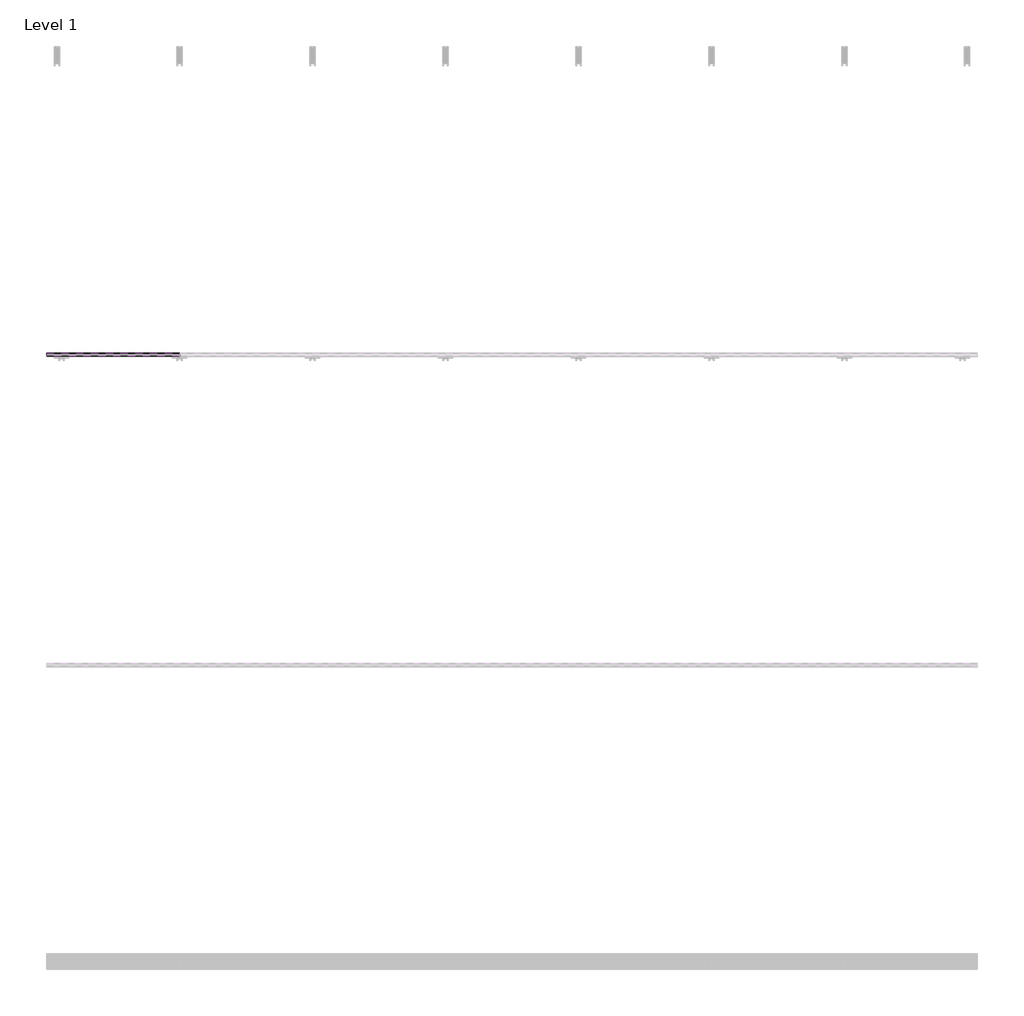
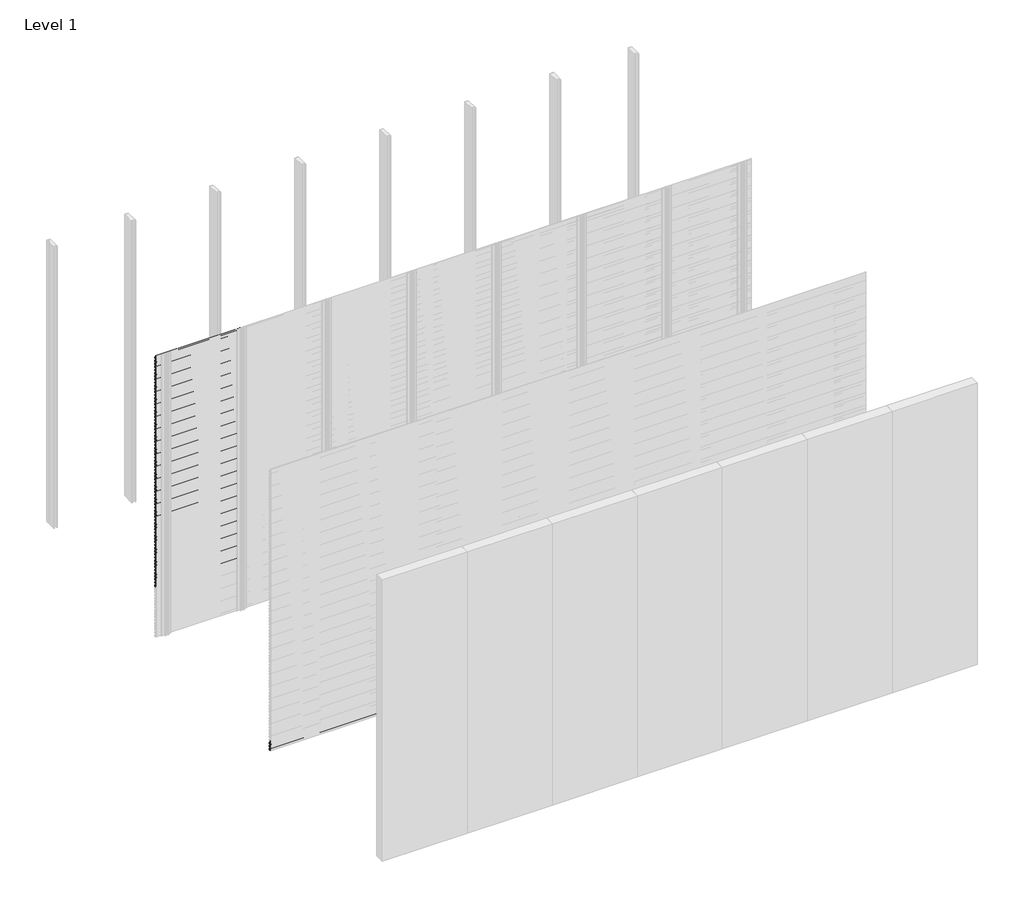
# One storey, part 5 of 96: 77 proxies.
"""IFC4 building model written with IfcOpenShell, lengths in millimetres."""

import ifcopenshell
import ifcopenshell.guid

model = None  # the IFC model being written
_history = None  # IfcOwnerHistory: only IFC2X3 demands one
_inside = {}  # id of a spatial element -> (the spatial element, [elements in it])
_under = {}  # id of a project, library or spatial element -> (it, [spatial elements below it])
_declared = {}  # id of a project -> (the project, [libraries it declares])
_typed = {}  # id of a type object -> (the type object, [elements of that type])
_made_of = {}  # id of a material, layer set ... -> (it, [elements and type objects made of it])


def new_model(schema):
    """Start an empty IFC model of exactly this schema.

    Asked for "IFC4X3", IfcOpenShell would pick the latest addendum, in which some entities
    have other attributes; the version numbers below select the first issue.
    IFC2X3 requires an IfcOwnerHistory on every rooted entity: one is made here for all.
    """
    global model, _history
    if schema == "IFC4X3":
        model = ifcopenshell.file(schema_version=(4, 3, 0, 0))
    else:
        model = ifcopenshell.file(schema=schema)
    _inside.clear()
    _under.clear()
    _declared.clear()
    _typed.clear()
    _made_of.clear()
    _history = None
    if model.schema == "IFC2X3":
        org = make("IfcOrganization", Name="unknown")
        user = make(
            "IfcPersonAndOrganization",
            ThePerson=make("IfcPerson", FamilyName="unknown"),
            TheOrganization=org,
        )
        app = make(
            "IfcApplication",
            ApplicationDeveloper=org,
            Version="unknown",
            ApplicationFullName="unknown",
            ApplicationIdentifier="unknown",
        )
        _history = make(
            "IfcOwnerHistory",
            OwningUser=user,
            OwningApplication=app,
            ChangeAction="ADDED",
            CreationDate=0,
        )
    return model


def make(cls, **values):
    """One entity of the class cls with the attributes given. An attribute that is None is left unset."""
    return model.create_entity(
        cls, **{name: value for name, value in values.items() if value is not None}
    )


def rooted(cls, **values):
    """An entity with a GlobalId (a new one), such as an element, a storey or a relation."""
    return make(cls, GlobalId=ifcopenshell.guid.new(), OwnerHistory=_history, **values)


def si_unit(unit_type, name, prefix=None):
    """IfcSIUnit, for example si_unit("LENGTHUNIT", "METRE", prefix="MILLI")."""
    return make("IfcSIUnit", UnitType=unit_type, Prefix=prefix, Name=name)


def assignment(units):
    """IfcUnitAssignment: the units of a project."""
    return None if units is None else make("IfcUnitAssignment", Units=units)


def point(xyz):
    """IfcCartesianPoint."""
    return None if xyz is None else make("IfcCartesianPoint", Coordinates=xyz)


def direction(xyz):
    """IfcDirection."""
    return None if xyz is None else make("IfcDirection", DirectionRatios=xyz)


def frame(location, z_axis=None, x_axis=None):
    """IfcAxis2Placement3D, a coordinate frame: its origin and axes. An axis left out is left unset."""
    return make(
        "IfcAxis2Placement3D",
        Location=point(location),
        Axis=direction(z_axis),
        RefDirection=direction(x_axis),
    )


def origin():
    """The frame at (0, 0, 0) with its axes left unset."""
    return frame((0.0, 0.0, 0.0))


def place(relative_to, where):
    """IfcLocalPlacement: puts the frame where relative to a parent placement (None: the world)."""
    return make(
        "IfcLocalPlacement", PlacementRelTo=relative_to, RelativePlacement=where
    )


def context(
    kind, dimensions, precision=None, world=None, true_north=None, identifier=None
):
    """IfcGeometricRepresentationContext, for example the 3D "Model" context."""
    return make(
        "IfcGeometricRepresentationContext",
        ContextIdentifier=identifier,
        ContextType=kind,
        CoordinateSpaceDimension=dimensions,
        Precision=precision,
        WorldCoordinateSystem=world,
        TrueNorth=true_north,
    )


def project(units=None, contexts=None):
    """IfcProject with its units and contexts."""
    return rooted(
        "IfcProject",
        Name="project",
        RepresentationContexts=contexts,
        UnitsInContext=assignment(units),
    )


def spatial(cls, under=None, at=None, **own):
    """A site, building, storey or space (cls), placed at a placement, below another one or the project."""
    s = rooted(cls, ObjectPlacement=at, **own)
    if under is not None:
        _under.setdefault(under.id(), (under, []))[1].append(s)
    return s


def polyline(points):
    """IfcPolyline through the points."""
    return make("IfcPolyline", Points=[point(p) for p in points])


def outline(outer, holes=None, kind="AREA"):
    """IfcArbitraryClosedProfileDef: a profile drawn as a closed curve; with holes, ...WithVoids."""
    if holes is None:
        return make("IfcArbitraryClosedProfileDef", ProfileType=kind, OuterCurve=outer)
    return make(
        "IfcArbitraryProfileDefWithVoids",
        ProfileType=kind,
        OuterCurve=outer,
        InnerCurves=holes,
    )


def extrude(swept, where, along, depth):
    """IfcExtrudedAreaSolid: the profile swept, set in the frame where, extruded along a direction by depth."""
    return make(
        "IfcExtrudedAreaSolid",
        SweptArea=swept,
        Position=where,
        ExtrudedDirection=direction(along),
        Depth=depth,
    )


def shape(context_of_items, identifier, shape_type, items):
    """IfcShapeRepresentation: the items that make up one representation, for example the "Body"."""
    return make(
        "IfcShapeRepresentation",
        ContextOfItems=context_of_items,
        RepresentationIdentifier=identifier,
        RepresentationType=shape_type,
        Items=items,
    )


def made_of(thing, what):
    """Note that an element or type object is made of a material, layer set ...; save() writes the relation."""
    if what is not None:
        _made_of.setdefault(what.id(), (what, []))[1].append(thing)
    return thing


def element(
    cls,
    number,
    at=None,
    inside=None,
    cuts=None,
    type_object=None,
    material=None,
    context=None,
    identifier="Body",
    shape_type=None,
    held_by="IfcProductDefinitionShape",
    body=None,
    shapes=None,
    **own,
):
    """One element of the class cls, such as IfcWall. Its Tag is "e" and its number.

    at: its placement. inside: the storey or other place that contains it. cuts: it is an
    opening in that element (IfcRelVoidsElement). A single representation is given by context,
    identifier, shape_type and body (its items); several are given by shapes. held_by: the class
    of the entity that holds the representations. save() writes the other relations.
    """
    e = rooted(cls, Tag="e%d" % number, ObjectPlacement=at, **own)
    if body is not None:
        shapes = [shape(context, identifier, shape_type, body)]
    if shapes is not None:
        e.Representation = make(held_by, Representations=shapes)
    if inside is not None:
        _inside.setdefault(inside.id(), (inside, []))[1].append(e)
    if cuts is not None:
        rooted(
            "IfcRelVoidsElement", RelatingBuildingElement=cuts, RelatedOpeningElement=e
        )
    if type_object is not None:
        _typed.setdefault(type_object.id(), (type_object, []))[1].append(e)
    return made_of(e, material)


def aggregate(whole, parts):
    """IfcRelAggregates: a whole, such as a stair, and the parts it consists of."""
    return rooted("IfcRelAggregates", RelatingObject=whole, RelatedObjects=parts)


def save(model, path):
    """Write the relations noted so far, then the file.

    IfcRelAggregates (storeys below a building ...), IfcRelContainedInSpatialStructure (elements
    in a storey), IfcRelDefinesByType, IfcRelAssociatesMaterial and IfcRelDeclares: one each for
    every whole, place, type object, material and project.
    """
    for whole, parts in _under.values():
        aggregate(whole, parts)
    for where, things in _inside.values():
        rooted(
            "IfcRelContainedInSpatialStructure",
            RelatedElements=things,
            RelatingStructure=where,
        )
    for kind, things in _typed.values():
        rooted("IfcRelDefinesByType", RelatedObjects=things, RelatingType=kind)
    for what, things in _made_of.values():
        rooted("IfcRelAssociatesMaterial", RelatedObjects=things, RelatingMaterial=what)
    for by, libraries in _declared.values():
        rooted("IfcRelDeclares", RelatingContext=by, RelatedDefinitions=libraries)
    model.write(path)


model = new_model("IFC4")

# Units and contexts
model_context = context("Model", 3, world=origin())
ifc_project = project(units=[si_unit("LENGTHUNIT", "METRE", prefix="MILLI")], contexts=[model_context])

# Site, building, storey
site = spatial("IfcSite", under=ifc_project)
building = spatial("IfcBuilding", under=site)
storey = spatial("IfcBuildingStorey", under=building, Name="Level 1", Elevation=0.0)

# Proxies
placement = place(None, origin())
element("IfcBuildingElementProxy", 1, Name="Wall Sweeps", at=placement, inside=storey, context=model_context, shape_type="SweptSolid", body=[
    extrude(outline(polyline([(-53977.6, 2971.7655033), (-53977.6, 2957.4779188), (-53982.4114965, 2954.7), (-53982.4114965, 2955.9701706), (-53978.85, 2958.0264016), (-53978.85, 2971.0437382), (-53998.0, 2982.1000799), (-53998.0, 2997.0), (-53996.75, 2997.0), (-53996.75, 2982.8217609), (-53977.6, 2971.7655033)])), frame((0.0, 0.0, 0.0), z_axis=(1.0, 0.0, 0.0), x_axis=(0.0, 1.0, 0.0)), (0.0, 0.0, 1.0), 857.1428571),
])
element("IfcBuildingElementProxy", 2, Name="Wall Sweeps", at=placement, inside=storey, context=model_context, shape_type="SweptSolid", body=[
    extrude(outline(polyline([(-53977.6, 2938.4655033), (-53977.6, 2924.1779188), (-53982.4114965, 2921.4), (-53982.4114965, 2922.6701706), (-53978.85, 2924.7264016), (-53978.85, 2937.7437382), (-53998.0, 2948.8000799), (-53998.0, 2963.7), (-53996.75, 2963.7), (-53996.75, 2949.5217609), (-53977.6, 2938.4655033)])), frame((0.0, 0.0, 0.0), z_axis=(1.0, 0.0, 0.0), x_axis=(0.0, 1.0, 0.0)), (0.0, 0.0, 1.0), 857.1428571),
])
element("IfcBuildingElementProxy", 3, Name="Wall Sweeps", at=placement, inside=storey, context=model_context, shape_type="SweptSolid", body=[
    extrude(outline(polyline([(-53977.6, 2905.1655033), (-53977.6, 2890.8779188), (-53982.4114965, 2888.1), (-53982.4114965, 2889.3701706), (-53978.85, 2891.4264016), (-53978.85, 2904.4437382), (-53998.0, 2915.5000799), (-53998.0, 2930.4), (-53996.75, 2930.4), (-53996.75, 2916.2217609), (-53977.6, 2905.1655033)])), frame((0.0, 0.0, 0.0), z_axis=(1.0, 0.0, 0.0), x_axis=(0.0, 1.0, 0.0)), (0.0, 0.0, 1.0), 857.1428571),
])
element("IfcBuildingElementProxy", 4, Name="Wall Sweeps", at=placement, inside=storey, context=model_context, shape_type="SweptSolid", body=[
    extrude(outline(polyline([(-53977.6, 2871.8655033), (-53977.6, 2857.5779188), (-53982.4114965, 2854.8), (-53982.4114965, 2856.0701706), (-53978.85, 2858.1264016), (-53978.85, 2871.1437382), (-53998.0, 2882.2000799), (-53998.0, 2897.1), (-53996.75, 2897.1), (-53996.75, 2882.9217609), (-53977.6, 2871.8655033)])), frame((0.0, 0.0, 0.0), z_axis=(1.0, 0.0, 0.0), x_axis=(0.0, 1.0, 0.0)), (0.0, 0.0, 1.0), 857.1428571),
])
element("IfcBuildingElementProxy", 5, Name="Wall Sweeps", at=placement, inside=storey, context=model_context, shape_type="SweptSolid", body=[
    extrude(outline(polyline([(-53977.6, 2838.5655033), (-53977.6, 2824.2779188), (-53982.4114965, 2821.5), (-53982.4114965, 2822.7701706), (-53978.85, 2824.8264016), (-53978.85, 2837.8437382), (-53998.0, 2848.9000799), (-53998.0, 2863.8), (-53996.75, 2863.8), (-53996.75, 2849.6217609), (-53977.6, 2838.5655033)])), frame((0.0, 0.0, 0.0), z_axis=(1.0, 0.0, 0.0), x_axis=(0.0, 1.0, 0.0)), (0.0, 0.0, 1.0), 857.1428571),
])
element("IfcBuildingElementProxy", 6, Name="Wall Sweeps", at=placement, inside=storey, context=model_context, shape_type="SweptSolid", body=[
    extrude(outline(polyline([(-53977.6, 2805.2655033), (-53977.6, 2790.9779188), (-53982.4114965, 2788.2), (-53982.4114965, 2789.4701706), (-53978.85, 2791.5264016), (-53978.85, 2804.5437382), (-53998.0, 2815.6000799), (-53998.0, 2830.5), (-53996.75, 2830.5), (-53996.75, 2816.3217609), (-53977.6, 2805.2655033)])), frame((0.0, 0.0, 0.0), z_axis=(1.0, 0.0, 0.0), x_axis=(0.0, 1.0, 0.0)), (0.0, 0.0, 1.0), 857.1428571),
])
element("IfcBuildingElementProxy", 7, Name="Wall Sweeps", at=placement, inside=storey, context=model_context, shape_type="SweptSolid", body=[
    extrude(outline(polyline([(-53977.6, 2771.9655033), (-53977.6, 2757.6779188), (-53982.4114965, 2754.9), (-53982.4114965, 2756.1701706), (-53978.85, 2758.2264016), (-53978.85, 2771.2437382), (-53998.0, 2782.3000799), (-53998.0, 2797.2), (-53996.75, 2797.2), (-53996.75, 2783.0217609), (-53977.6, 2771.9655033)])), frame((0.0, 0.0, 0.0), z_axis=(1.0, 0.0, 0.0), x_axis=(0.0, 1.0, 0.0)), (0.0, 0.0, 1.0), 857.1428571),
])
element("IfcBuildingElementProxy", 8, Name="Wall Sweeps", at=placement, inside=storey, context=model_context, shape_type="SweptSolid", body=[
    extrude(outline(polyline([(-53977.6, 2738.6655033), (-53977.6, 2724.3779188), (-53982.4114965, 2721.6), (-53982.4114965, 2722.8701706), (-53978.85, 2724.9264016), (-53978.85, 2737.9437382), (-53998.0, 2749.0000799), (-53998.0, 2763.9), (-53996.75, 2763.9), (-53996.75, 2749.7217609), (-53977.6, 2738.6655033)])), frame((0.0, 0.0, 0.0), z_axis=(1.0, 0.0, 0.0), x_axis=(0.0, 1.0, 0.0)), (0.0, 0.0, 1.0), 857.1428571),
])
element("IfcBuildingElementProxy", 9, Name="Wall Sweeps", at=placement, inside=storey, context=model_context, shape_type="SweptSolid", body=[
    extrude(outline(polyline([(-53977.6, 2705.3655033), (-53977.6, 2691.0779188), (-53982.4114965, 2688.3), (-53982.4114965, 2689.5701706), (-53978.85, 2691.6264016), (-53978.85, 2704.6437382), (-53998.0, 2715.7000799), (-53998.0, 2730.6), (-53996.75, 2730.6), (-53996.75, 2716.4217609), (-53977.6, 2705.3655033)])), frame((0.0, 0.0, 0.0), z_axis=(1.0, 0.0, 0.0), x_axis=(0.0, 1.0, 0.0)), (0.0, 0.0, 1.0), 857.1428571),
])
element("IfcBuildingElementProxy", 10, Name="Wall Sweeps", at=placement, inside=storey, context=model_context, shape_type="SweptSolid", body=[
    extrude(outline(polyline([(-53977.6, 2672.0655033), (-53977.6, 2657.7779188), (-53982.4114965, 2655.0), (-53982.4114965, 2656.2701706), (-53978.85, 2658.3264016), (-53978.85, 2671.3437382), (-53998.0, 2682.4000799), (-53998.0, 2697.3), (-53996.75, 2697.3), (-53996.75, 2683.1217609), (-53977.6, 2672.0655033)])), frame((0.0, 0.0, 0.0), z_axis=(1.0, 0.0, 0.0), x_axis=(0.0, 1.0, 0.0)), (0.0, 0.0, 1.0), 857.1428571),
])
element("IfcBuildingElementProxy", 11, Name="Wall Sweeps", at=placement, inside=storey, context=model_context, shape_type="SweptSolid", body=[
    extrude(outline(polyline([(-53977.6, 2638.7655033), (-53977.6, 2624.4779188), (-53982.4114965, 2621.7), (-53982.4114965, 2622.9701706), (-53978.85, 2625.0264016), (-53978.85, 2638.0437382), (-53998.0, 2649.1000799), (-53998.0, 2664.0), (-53996.75, 2664.0), (-53996.75, 2649.8217609), (-53977.6, 2638.7655033)])), frame((0.0, 0.0, 0.0), z_axis=(1.0, 0.0, 0.0), x_axis=(0.0, 1.0, 0.0)), (0.0, 0.0, 1.0), 857.1428571),
])
element("IfcBuildingElementProxy", 12, Name="Wall Sweeps", at=placement, inside=storey, context=model_context, shape_type="SweptSolid", body=[
    extrude(outline(polyline([(-53977.6, 2605.4655033), (-53977.6, 2591.1779188), (-53982.4114965, 2588.4), (-53982.4114965, 2589.6701706), (-53978.85, 2591.7264016), (-53978.85, 2604.7437382), (-53998.0, 2615.8000799), (-53998.0, 2630.7), (-53996.75, 2630.7), (-53996.75, 2616.5217609), (-53977.6, 2605.4655033)])), frame((0.0, 0.0, 0.0), z_axis=(1.0, 0.0, 0.0), x_axis=(0.0, 1.0, 0.0)), (0.0, 0.0, 1.0), 857.1428571),
])
element("IfcBuildingElementProxy", 13, Name="Wall Sweeps", at=placement, inside=storey, context=model_context, shape_type="SweptSolid", body=[
    extrude(outline(polyline([(-53977.6, 2572.1655033), (-53977.6, 2557.8779188), (-53982.4114965, 2555.1), (-53982.4114965, 2556.3701706), (-53978.85, 2558.4264016), (-53978.85, 2571.4437382), (-53998.0, 2582.5000799), (-53998.0, 2597.4), (-53996.75, 2597.4), (-53996.75, 2583.2217609), (-53977.6, 2572.1655033)])), frame((0.0, 0.0, 0.0), z_axis=(1.0, 0.0, 0.0), x_axis=(0.0, 1.0, 0.0)), (0.0, 0.0, 1.0), 857.1428571),
])
element("IfcBuildingElementProxy", 14, Name="Wall Sweeps", at=placement, inside=storey, context=model_context, shape_type="SweptSolid", body=[
    extrude(outline(polyline([(-53977.6, 2538.8655033), (-53977.6, 2524.5779188), (-53982.4114965, 2521.8), (-53982.4114965, 2523.0701706), (-53978.85, 2525.1264016), (-53978.85, 2538.1437382), (-53998.0, 2549.2000799), (-53998.0, 2564.1), (-53996.75, 2564.1), (-53996.75, 2549.9217609), (-53977.6, 2538.8655033)])), frame((0.0, 0.0, 0.0), z_axis=(1.0, 0.0, 0.0), x_axis=(0.0, 1.0, 0.0)), (0.0, 0.0, 1.0), 857.1428571),
])
element("IfcBuildingElementProxy", 15, Name="Wall Sweeps", at=placement, inside=storey, context=model_context, shape_type="SweptSolid", body=[
    extrude(outline(polyline([(-53977.6, 2505.5655033), (-53977.6, 2491.2779188), (-53982.4114965, 2488.5), (-53982.4114965, 2489.7701706), (-53978.85, 2491.8264016), (-53978.85, 2504.8437382), (-53998.0, 2515.9000799), (-53998.0, 2530.8), (-53996.75, 2530.8), (-53996.75, 2516.6217609), (-53977.6, 2505.5655033)])), frame((0.0, 0.0, 0.0), z_axis=(1.0, 0.0, 0.0), x_axis=(0.0, 1.0, 0.0)), (0.0, 0.0, 1.0), 857.1428571),
])
element("IfcBuildingElementProxy", 16, Name="Wall Sweeps", at=placement, inside=storey, context=model_context, shape_type="SweptSolid", body=[
    extrude(outline(polyline([(-53977.6, 2472.2655033), (-53977.6, 2457.9779188), (-53982.4114965, 2455.2), (-53982.4114965, 2456.4701706), (-53978.85, 2458.5264016), (-53978.85, 2471.5437382), (-53998.0, 2482.6000799), (-53998.0, 2497.5), (-53996.75, 2497.5), (-53996.75, 2483.3217609), (-53977.6, 2472.2655033)])), frame((0.0, 0.0, 0.0), z_axis=(1.0, 0.0, 0.0), x_axis=(0.0, 1.0, 0.0)), (0.0, 0.0, 1.0), 857.1428571),
])
element("IfcBuildingElementProxy", 17, Name="Wall Sweeps", at=placement, inside=storey, context=model_context, shape_type="SweptSolid", body=[
    extrude(outline(polyline([(-53977.6, 2438.9655033), (-53977.6, 2424.6779188), (-53982.4114965, 2421.9), (-53982.4114965, 2423.1701706), (-53978.85, 2425.2264016), (-53978.85, 2438.2437382), (-53998.0, 2449.3000799), (-53998.0, 2464.2), (-53996.75, 2464.2), (-53996.75, 2450.0217609), (-53977.6, 2438.9655033)])), frame((0.0, 0.0, 0.0), z_axis=(1.0, 0.0, 0.0), x_axis=(0.0, 1.0, 0.0)), (0.0, 0.0, 1.0), 857.1428571),
])
element("IfcBuildingElementProxy", 18, Name="Wall Sweeps", at=placement, inside=storey, context=model_context, shape_type="SweptSolid", body=[
    extrude(outline(polyline([(-53977.6, 2405.6655033), (-53977.6, 2391.3779188), (-53982.4114965, 2388.6), (-53982.4114965, 2389.8701706), (-53978.85, 2391.9264016), (-53978.85, 2404.9437382), (-53998.0, 2416.0000799), (-53998.0, 2430.9), (-53996.75, 2430.9), (-53996.75, 2416.7217609), (-53977.6, 2405.6655033)])), frame((0.0, 0.0, 0.0), z_axis=(1.0, 0.0, 0.0), x_axis=(0.0, 1.0, 0.0)), (0.0, 0.0, 1.0), 857.1428571),
])
element("IfcBuildingElementProxy", 19, Name="Wall Sweeps", at=placement, inside=storey, context=model_context, shape_type="SweptSolid", body=[
    extrude(outline(polyline([(-53977.6, 2372.3655033), (-53977.6, 2358.0779188), (-53982.4114965, 2355.3), (-53982.4114965, 2356.5701706), (-53978.85, 2358.6264016), (-53978.85, 2371.6437382), (-53998.0, 2382.7000799), (-53998.0, 2397.6), (-53996.75, 2397.6), (-53996.75, 2383.4217609), (-53977.6, 2372.3655033)])), frame((0.0, 0.0, 0.0), z_axis=(1.0, 0.0, 0.0), x_axis=(0.0, 1.0, 0.0)), (0.0, 0.0, 1.0), 857.1428571),
])
element("IfcBuildingElementProxy", 20, Name="Wall Sweeps", at=placement, inside=storey, context=model_context, shape_type="SweptSolid", body=[
    extrude(outline(polyline([(-53977.6, 2339.0655033), (-53977.6, 2324.7779188), (-53982.4114965, 2322.0), (-53982.4114965, 2323.2701706), (-53978.85, 2325.3264016), (-53978.85, 2338.3437382), (-53998.0, 2349.4000799), (-53998.0, 2364.3), (-53996.75, 2364.3), (-53996.75, 2350.1217609), (-53977.6, 2339.0655033)])), frame((0.0, 0.0, 0.0), z_axis=(1.0, 0.0, 0.0), x_axis=(0.0, 1.0, 0.0)), (0.0, 0.0, 1.0), 857.1428571),
])
element("IfcBuildingElementProxy", 21, Name="Wall Sweeps", at=placement, inside=storey, context=model_context, shape_type="SweptSolid", body=[
    extrude(outline(polyline([(-53977.6, 2305.7655033), (-53977.6, 2291.4779188), (-53982.4114965, 2288.7), (-53982.4114965, 2289.9701706), (-53978.85, 2292.0264016), (-53978.85, 2305.0437382), (-53998.0, 2316.1000799), (-53998.0, 2331.0), (-53996.75, 2331.0), (-53996.75, 2316.8217609), (-53977.6, 2305.7655033)])), frame((0.0, 0.0, 0.0), z_axis=(1.0, 0.0, 0.0), x_axis=(0.0, 1.0, 0.0)), (0.0, 0.0, 1.0), 857.1428571),
])
element("IfcBuildingElementProxy", 22, Name="Wall Sweeps", at=placement, inside=storey, context=model_context, shape_type="SweptSolid", body=[
    extrude(outline(polyline([(-53977.6, 2272.4655033), (-53977.6, 2258.1779188), (-53982.4114965, 2255.4), (-53982.4114965, 2256.6701706), (-53978.85, 2258.7264016), (-53978.85, 2271.7437382), (-53998.0, 2282.8000799), (-53998.0, 2297.7), (-53996.75, 2297.7), (-53996.75, 2283.5217609), (-53977.6, 2272.4655033)])), frame((0.0, 0.0, 0.0), z_axis=(1.0, 0.0, 0.0), x_axis=(0.0, 1.0, 0.0)), (0.0, 0.0, 1.0), 857.1428571),
])
element("IfcBuildingElementProxy", 23, Name="Wall Sweeps", at=placement, inside=storey, context=model_context, shape_type="SweptSolid", body=[
    extrude(outline(polyline([(-53977.6, 2239.1655033), (-53977.6, 2224.8779188), (-53982.4114965, 2222.1), (-53982.4114965, 2223.3701706), (-53978.85, 2225.4264016), (-53978.85, 2238.4437382), (-53998.0, 2249.5000799), (-53998.0, 2264.4), (-53996.75, 2264.4), (-53996.75, 2250.2217609), (-53977.6, 2239.1655033)])), frame((0.0, 0.0, 0.0), z_axis=(1.0, 0.0, 0.0), x_axis=(0.0, 1.0, 0.0)), (0.0, 0.0, 1.0), 857.1428571),
])
element("IfcBuildingElementProxy", 24, Name="Wall Sweeps", at=placement, inside=storey, context=model_context, shape_type="SweptSolid", body=[
    extrude(outline(polyline([(-53977.6, 2205.8655033), (-53977.6, 2191.5779188), (-53982.4114965, 2188.8), (-53982.4114965, 2190.0701706), (-53978.85, 2192.1264016), (-53978.85, 2205.1437382), (-53998.0, 2216.2000799), (-53998.0, 2231.1), (-53996.75, 2231.1), (-53996.75, 2216.9217609), (-53977.6, 2205.8655033)])), frame((0.0, 0.0, 0.0), z_axis=(1.0, 0.0, 0.0), x_axis=(0.0, 1.0, 0.0)), (0.0, 0.0, 1.0), 857.1428571),
])
element("IfcBuildingElementProxy", 25, Name="Wall Sweeps", at=placement, inside=storey, context=model_context, shape_type="SweptSolid", body=[
    extrude(outline(polyline([(-53977.6, 2172.5655033), (-53977.6, 2158.2779188), (-53982.4114965, 2155.5), (-53982.4114965, 2156.7701706), (-53978.85, 2158.8264016), (-53978.85, 2171.8437382), (-53998.0, 2182.9000799), (-53998.0, 2197.8), (-53996.75, 2197.8), (-53996.75, 2183.6217609), (-53977.6, 2172.5655033)])), frame((0.0, 0.0, 0.0), z_axis=(1.0, 0.0, 0.0), x_axis=(0.0, 1.0, 0.0)), (0.0, 0.0, 1.0), 857.1428571),
])
element("IfcBuildingElementProxy", 26, Name="Wall Sweeps", at=placement, inside=storey, context=model_context, shape_type="SweptSolid", body=[
    extrude(outline(polyline([(-53977.6, 2139.2655033), (-53977.6, 2124.9779188), (-53982.4114965, 2122.2), (-53982.4114965, 2123.4701706), (-53978.85, 2125.5264016), (-53978.85, 2138.5437382), (-53998.0, 2149.6000799), (-53998.0, 2164.5), (-53996.75, 2164.5), (-53996.75, 2150.3217609), (-53977.6, 2139.2655033)])), frame((0.0, 0.0, 0.0), z_axis=(1.0, 0.0, 0.0), x_axis=(0.0, 1.0, 0.0)), (0.0, 0.0, 1.0), 857.1428571),
])
element("IfcBuildingElementProxy", 27, Name="Wall Sweeps", at=placement, inside=storey, context=model_context, shape_type="SweptSolid", body=[
    extrude(outline(polyline([(-53977.6, 2105.9655033), (-53977.6, 2091.6779188), (-53982.4114965, 2088.9), (-53982.4114965, 2090.1701706), (-53978.85, 2092.2264016), (-53978.85, 2105.2437382), (-53998.0, 2116.3000799), (-53998.0, 2131.2), (-53996.75, 2131.2), (-53996.75, 2117.0217609), (-53977.6, 2105.9655033)])), frame((0.0, 0.0, 0.0), z_axis=(1.0, 0.0, 0.0), x_axis=(0.0, 1.0, 0.0)), (0.0, 0.0, 1.0), 857.1428571),
])
element("IfcBuildingElementProxy", 28, Name="Wall Sweeps", at=placement, inside=storey, context=model_context, shape_type="SweptSolid", body=[
    extrude(outline(polyline([(-53977.6, 2072.6655033), (-53977.6, 2058.3779188), (-53982.4114965, 2055.6), (-53982.4114965, 2056.8701706), (-53978.85, 2058.9264016), (-53978.85, 2071.9437382), (-53998.0, 2083.0000799), (-53998.0, 2097.9), (-53996.75, 2097.9), (-53996.75, 2083.7217609), (-53977.6, 2072.6655033)])), frame((0.0, 0.0, 0.0), z_axis=(1.0, 0.0, 0.0), x_axis=(0.0, 1.0, 0.0)), (0.0, 0.0, 1.0), 857.1428571),
])
element("IfcBuildingElementProxy", 29, Name="Wall Sweeps", at=placement, inside=storey, context=model_context, shape_type="SweptSolid", body=[
    extrude(outline(polyline([(-53977.6, 2039.3655033), (-53977.6, 2025.0779188), (-53982.4114965, 2022.3), (-53982.4114965, 2023.5701706), (-53978.85, 2025.6264016), (-53978.85, 2038.6437382), (-53998.0, 2049.7000799), (-53998.0, 2064.6), (-53996.75, 2064.6), (-53996.75, 2050.4217609), (-53977.6, 2039.3655033)])), frame((0.0, 0.0, 0.0), z_axis=(1.0, 0.0, 0.0), x_axis=(0.0, 1.0, 0.0)), (0.0, 0.0, 1.0), 857.1428571),
])
element("IfcBuildingElementProxy", 30, Name="Wall Sweeps", at=placement, inside=storey, context=model_context, shape_type="SweptSolid", body=[
    extrude(outline(polyline([(-53977.6, 2006.0655033), (-53977.6, 1991.7779188), (-53982.4114965, 1989.0), (-53982.4114965, 1990.2701706), (-53978.85, 1992.3264016), (-53978.85, 2005.3437382), (-53998.0, 2016.4000799), (-53998.0, 2031.3), (-53996.75, 2031.3), (-53996.75, 2017.1217609), (-53977.6, 2006.0655033)])), frame((0.0, 0.0, 0.0), z_axis=(1.0, 0.0, 0.0), x_axis=(0.0, 1.0, 0.0)), (0.0, 0.0, 1.0), 857.1428571),
])
element("IfcBuildingElementProxy", 31, Name="Wall Sweeps", at=placement, inside=storey, context=model_context, shape_type="SweptSolid", body=[
    extrude(outline(polyline([(-53977.6, 1972.7655033), (-53977.6, 1958.4779188), (-53982.4114965, 1955.7), (-53982.4114965, 1956.9701706), (-53978.85, 1959.0264016), (-53978.85, 1972.0437382), (-53998.0, 1983.1000799), (-53998.0, 1998.0), (-53996.75, 1998.0), (-53996.75, 1983.8217609), (-53977.6, 1972.7655033)])), frame((0.0, 0.0, 0.0), z_axis=(1.0, 0.0, 0.0), x_axis=(0.0, 1.0, 0.0)), (0.0, 0.0, 1.0), 857.1428571),
])
element("IfcBuildingElementProxy", 32, Name="Wall Sweeps", at=placement, inside=storey, context=model_context, shape_type="SweptSolid", body=[
    extrude(outline(polyline([(-53977.6, 1939.4655033), (-53977.6, 1925.1779188), (-53982.4114965, 1922.4), (-53982.4114965, 1923.6701706), (-53978.85, 1925.7264016), (-53978.85, 1938.7437382), (-53998.0, 1949.8000799), (-53998.0, 1964.7), (-53996.75, 1964.7), (-53996.75, 1950.5217609), (-53977.6, 1939.4655033)])), frame((0.0, 0.0, 0.0), z_axis=(1.0, 0.0, 0.0), x_axis=(0.0, 1.0, 0.0)), (0.0, 0.0, 1.0), 857.1428571),
])
element("IfcBuildingElementProxy", 33, Name="Wall Sweeps", at=placement, inside=storey, context=model_context, shape_type="SweptSolid", body=[
    extrude(outline(polyline([(-53977.6, 1906.1655033), (-53977.6, 1891.8779188), (-53982.4114965, 1889.1), (-53982.4114965, 1890.3701706), (-53978.85, 1892.4264016), (-53978.85, 1905.4437382), (-53998.0, 1916.5000799), (-53998.0, 1931.4), (-53996.75, 1931.4), (-53996.75, 1917.2217609), (-53977.6, 1906.1655033)])), frame((0.0, 0.0, 0.0), z_axis=(1.0, 0.0, 0.0), x_axis=(0.0, 1.0, 0.0)), (0.0, 0.0, 1.0), 857.1428571),
])
element("IfcBuildingElementProxy", 34, Name="Wall Sweeps", at=placement, inside=storey, context=model_context, shape_type="SweptSolid", body=[
    extrude(outline(polyline([(-53977.6, 1872.8655033), (-53977.6, 1858.5779188), (-53982.4114965, 1855.8), (-53982.4114965, 1857.0701706), (-53978.85, 1859.1264016), (-53978.85, 1872.1437382), (-53998.0, 1883.2000799), (-53998.0, 1898.1), (-53996.75, 1898.1), (-53996.75, 1883.9217609), (-53977.6, 1872.8655033)])), frame((0.0, 0.0, 0.0), z_axis=(1.0, 0.0, 0.0), x_axis=(0.0, 1.0, 0.0)), (0.0, 0.0, 1.0), 857.1428571),
])
element("IfcBuildingElementProxy", 35, Name="Wall Sweeps", at=placement, inside=storey, context=model_context, shape_type="SweptSolid", body=[
    extrude(outline(polyline([(-53977.6, 1839.5655033), (-53977.6, 1825.2779188), (-53982.4114965, 1822.5), (-53982.4114965, 1823.7701706), (-53978.85, 1825.8264016), (-53978.85, 1838.8437382), (-53998.0, 1849.9000799), (-53998.0, 1864.8), (-53996.75, 1864.8), (-53996.75, 1850.6217609), (-53977.6, 1839.5655033)])), frame((0.0, 0.0, 0.0), z_axis=(1.0, 0.0, 0.0), x_axis=(0.0, 1.0, 0.0)), (0.0, 0.0, 1.0), 857.1428571),
])
element("IfcBuildingElementProxy", 36, Name="Wall Sweeps", at=placement, inside=storey, context=model_context, shape_type="SweptSolid", body=[
    extrude(outline(polyline([(-53977.6, 1806.2655033), (-53977.6, 1791.9779188), (-53982.4114965, 1789.2), (-53982.4114965, 1790.4701706), (-53978.85, 1792.5264016), (-53978.85, 1805.5437382), (-53998.0, 1816.6000799), (-53998.0, 1831.5), (-53996.75, 1831.5), (-53996.75, 1817.3217609), (-53977.6, 1806.2655033)])), frame((0.0, 0.0, 0.0), z_axis=(1.0, 0.0, 0.0), x_axis=(0.0, 1.0, 0.0)), (0.0, 0.0, 1.0), 857.1428571),
])
element("IfcBuildingElementProxy", 37, Name="Wall Sweeps", at=placement, inside=storey, context=model_context, shape_type="SweptSolid", body=[
    extrude(outline(polyline([(-53977.6, 1772.9655033), (-53977.6, 1758.6779188), (-53982.4114965, 1755.9), (-53982.4114965, 1757.1701706), (-53978.85, 1759.2264016), (-53978.85, 1772.2437382), (-53998.0, 1783.3000799), (-53998.0, 1798.2), (-53996.75, 1798.2), (-53996.75, 1784.0217609), (-53977.6, 1772.9655033)])), frame((0.0, 0.0, 0.0), z_axis=(1.0, 0.0, 0.0), x_axis=(0.0, 1.0, 0.0)), (0.0, 0.0, 1.0), 857.1428571),
])
element("IfcBuildingElementProxy", 38, Name="Wall Sweeps", at=placement, inside=storey, context=model_context, shape_type="SweptSolid", body=[
    extrude(outline(polyline([(-53977.6, 1739.6655033), (-53977.6, 1725.3779188), (-53982.4114965, 1722.6), (-53982.4114965, 1723.8701706), (-53978.85, 1725.9264016), (-53978.85, 1738.9437382), (-53998.0, 1750.0000799), (-53998.0, 1764.9), (-53996.75, 1764.9), (-53996.75, 1750.7217609), (-53977.6, 1739.6655033)])), frame((0.0, 0.0, 0.0), z_axis=(1.0, 0.0, 0.0), x_axis=(0.0, 1.0, 0.0)), (0.0, 0.0, 1.0), 857.1428571),
])
element("IfcBuildingElementProxy", 39, Name="Wall Sweeps", at=placement, inside=storey, context=model_context, shape_type="SweptSolid", body=[
    extrude(outline(polyline([(-53977.6, 1706.3655033), (-53977.6, 1692.0779188), (-53982.4114965, 1689.3), (-53982.4114965, 1690.5701706), (-53978.85, 1692.6264016), (-53978.85, 1705.6437382), (-53998.0, 1716.7000799), (-53998.0, 1731.6), (-53996.75, 1731.6), (-53996.75, 1717.4217609), (-53977.6, 1706.3655033)])), frame((0.0, 0.0, 0.0), z_axis=(1.0, 0.0, 0.0), x_axis=(0.0, 1.0, 0.0)), (0.0, 0.0, 1.0), 857.1428571),
])
element("IfcBuildingElementProxy", 40, Name="Wall Sweeps", at=placement, inside=storey, context=model_context, shape_type="SweptSolid", body=[
    extrude(outline(polyline([(-53977.6, 1673.0655033), (-53977.6, 1658.7779188), (-53982.4114965, 1656.0), (-53982.4114965, 1657.2701706), (-53978.85, 1659.3264016), (-53978.85, 1672.3437382), (-53998.0, 1683.4000799), (-53998.0, 1698.3), (-53996.75, 1698.3), (-53996.75, 1684.1217609), (-53977.6, 1673.0655033)])), frame((0.0, 0.0, 0.0), z_axis=(1.0, 0.0, 0.0), x_axis=(0.0, 1.0, 0.0)), (0.0, 0.0, 1.0), 857.1428571),
])
element("IfcBuildingElementProxy", 41, Name="Wall Sweeps", at=placement, inside=storey, context=model_context, shape_type="SweptSolid", body=[
    extrude(outline(polyline([(-53977.6, 1639.7655033), (-53977.6, 1625.4779188), (-53982.4114965, 1622.7), (-53982.4114965, 1623.9701706), (-53978.85, 1626.0264016), (-53978.85, 1639.0437382), (-53998.0, 1650.1000799), (-53998.0, 1665.0), (-53996.75, 1665.0), (-53996.75, 1650.8217609), (-53977.6, 1639.7655033)])), frame((0.0, 0.0, 0.0), z_axis=(1.0, 0.0, 0.0), x_axis=(0.0, 1.0, 0.0)), (0.0, 0.0, 1.0), 857.1428571),
])
element("IfcBuildingElementProxy", 42, Name="Wall Sweeps", at=placement, inside=storey, context=model_context, shape_type="SweptSolid", body=[
    extrude(outline(polyline([(-53977.6, 1606.4655033), (-53977.6, 1592.1779188), (-53982.4114965, 1589.4), (-53982.4114965, 1590.6701706), (-53978.85, 1592.7264016), (-53978.85, 1605.7437382), (-53998.0, 1616.8000799), (-53998.0, 1631.7), (-53996.75, 1631.7), (-53996.75, 1617.5217609), (-53977.6, 1606.4655033)])), frame((0.0, 0.0, 0.0), z_axis=(1.0, 0.0, 0.0), x_axis=(0.0, 1.0, 0.0)), (0.0, 0.0, 1.0), 857.1428571),
])
element("IfcBuildingElementProxy", 43, Name="Wall Sweeps", at=placement, inside=storey, context=model_context, shape_type="SweptSolid", body=[
    extrude(outline(polyline([(-53977.6, 1573.1655033), (-53977.6, 1558.8779188), (-53982.4114965, 1556.1), (-53982.4114965, 1557.3701706), (-53978.85, 1559.4264016), (-53978.85, 1572.4437382), (-53998.0, 1583.5000799), (-53998.0, 1598.4), (-53996.75, 1598.4), (-53996.75, 1584.2217609), (-53977.6, 1573.1655033)])), frame((0.0, 0.0, 0.0), z_axis=(1.0, 0.0, 0.0), x_axis=(0.0, 1.0, 0.0)), (0.0, 0.0, 1.0), 857.1428571),
])
element("IfcBuildingElementProxy", 44, Name="Wall Sweeps", at=placement, inside=storey, context=model_context, shape_type="SweptSolid", body=[
    extrude(outline(polyline([(-53977.6, 1539.8655033), (-53977.6, 1525.5779188), (-53982.4114965, 1522.8), (-53982.4114965, 1524.0701706), (-53978.85, 1526.1264016), (-53978.85, 1539.1437382), (-53998.0, 1550.2000799), (-53998.0, 1565.1), (-53996.75, 1565.1), (-53996.75, 1550.9217609), (-53977.6, 1539.8655033)])), frame((0.0, 0.0, 0.0), z_axis=(1.0, 0.0, 0.0), x_axis=(0.0, 1.0, 0.0)), (0.0, 0.0, 1.0), 857.1428571),
])
element("IfcBuildingElementProxy", 45, Name="Wall Sweeps", at=placement, inside=storey, context=model_context, shape_type="SweptSolid", body=[
    extrude(outline(polyline([(-53977.6, 1506.5655033), (-53977.6, 1492.2779188), (-53982.4114965, 1489.5), (-53982.4114965, 1490.7701706), (-53978.85, 1492.8264016), (-53978.85, 1505.8437382), (-53998.0, 1516.9000799), (-53998.0, 1531.8), (-53996.75, 1531.8), (-53996.75, 1517.6217609), (-53977.6, 1506.5655033)])), frame((0.0, 0.0, 0.0), z_axis=(1.0, 0.0, 0.0), x_axis=(0.0, 1.0, 0.0)), (0.0, 0.0, 1.0), 857.1428571),
])
element("IfcBuildingElementProxy", 46, Name="Wall Sweeps", at=placement, inside=storey, context=model_context, shape_type="SweptSolid", body=[
    extrude(outline(polyline([(-53977.6, 1473.2655033), (-53977.6, 1458.9779188), (-53982.4114965, 1456.2), (-53982.4114965, 1457.4701706), (-53978.85, 1459.5264016), (-53978.85, 1472.5437382), (-53998.0, 1483.6000799), (-53998.0, 1498.5), (-53996.75, 1498.5), (-53996.75, 1484.3217609), (-53977.6, 1473.2655033)])), frame((0.0, 0.0, 0.0), z_axis=(1.0, 0.0, 0.0), x_axis=(0.0, 1.0, 0.0)), (0.0, 0.0, 1.0), 857.1428571),
])
element("IfcBuildingElementProxy", 47, Name="Wall Sweeps", at=placement, inside=storey, context=model_context, shape_type="SweptSolid", body=[
    extrude(outline(polyline([(-53977.6, 1439.9655033), (-53977.6, 1425.6779188), (-53982.4114965, 1422.9), (-53982.4114965, 1424.1701706), (-53978.85, 1426.2264016), (-53978.85, 1439.2437382), (-53998.0, 1450.3000799), (-53998.0, 1465.2), (-53996.75, 1465.2), (-53996.75, 1451.0217609), (-53977.6, 1439.9655033)])), frame((0.0, 0.0, 0.0), z_axis=(1.0, 0.0, 0.0), x_axis=(0.0, 1.0, 0.0)), (0.0, 0.0, 1.0), 857.1428571),
])
element("IfcBuildingElementProxy", 48, Name="Wall Sweeps", at=placement, inside=storey, context=model_context, shape_type="SweptSolid", body=[
    extrude(outline(polyline([(-53977.6, 1406.6655033), (-53977.6, 1392.3779188), (-53982.4114965, 1389.6), (-53982.4114965, 1390.8701706), (-53978.85, 1392.9264016), (-53978.85, 1405.9437382), (-53998.0, 1417.0000799), (-53998.0, 1431.9), (-53996.75, 1431.9), (-53996.75, 1417.7217609), (-53977.6, 1406.6655033)])), frame((0.0, 0.0, 0.0), z_axis=(1.0, 0.0, 0.0), x_axis=(0.0, 1.0, 0.0)), (0.0, 0.0, 1.0), 857.1428571),
])
element("IfcBuildingElementProxy", 49, Name="Wall Sweeps", at=placement, inside=storey, context=model_context, shape_type="SweptSolid", body=[
    extrude(outline(polyline([(-53977.6, 1373.3655033), (-53977.6, 1359.0779188), (-53982.4114965, 1356.3), (-53982.4114965, 1357.5701706), (-53978.85, 1359.6264016), (-53978.85, 1372.6437382), (-53998.0, 1383.7000799), (-53998.0, 1398.6), (-53996.75, 1398.6), (-53996.75, 1384.4217609), (-53977.6, 1373.3655033)])), frame((0.0, 0.0, 0.0), z_axis=(1.0, 0.0, 0.0), x_axis=(0.0, 1.0, 0.0)), (0.0, 0.0, 1.0), 857.1428571),
])
element("IfcBuildingElementProxy", 50, Name="Wall Sweeps", at=placement, inside=storey, context=model_context, shape_type="SweptSolid", body=[
    extrude(outline(polyline([(-53977.6, 1340.0655033), (-53977.6, 1325.7779188), (-53982.4114965, 1323.0), (-53982.4114965, 1324.2701706), (-53978.85, 1326.3264016), (-53978.85, 1339.3437382), (-53998.0, 1350.4000799), (-53998.0, 1365.3), (-53996.75, 1365.3), (-53996.75, 1351.1217609), (-53977.6, 1340.0655033)])), frame((0.0, 0.0, 0.0), z_axis=(1.0, 0.0, 0.0), x_axis=(0.0, 1.0, 0.0)), (0.0, 0.0, 1.0), 857.1428571),
])
element("IfcBuildingElementProxy", 51, Name="Wall Sweeps", at=placement, inside=storey, context=model_context, shape_type="SweptSolid", body=[
    extrude(outline(polyline([(-53977.6, 1306.7655033), (-53977.6, 1292.4779188), (-53982.4114965, 1289.7), (-53982.4114965, 1290.9701706), (-53978.85, 1293.0264016), (-53978.85, 1306.0437382), (-53998.0, 1317.1000799), (-53998.0, 1332.0), (-53996.75, 1332.0), (-53996.75, 1317.8217609), (-53977.6, 1306.7655033)])), frame((0.0, 0.0, 0.0), z_axis=(1.0, 0.0, 0.0), x_axis=(0.0, 1.0, 0.0)), (0.0, 0.0, 1.0), 857.1428571),
])
element("IfcBuildingElementProxy", 52, Name="Wall Sweeps", at=placement, inside=storey, context=model_context, shape_type="SweptSolid", body=[
    extrude(outline(polyline([(-53977.6, 1273.4655033), (-53977.6, 1259.1779188), (-53982.4114965, 1256.4), (-53982.4114965, 1257.6701706), (-53978.85, 1259.7264016), (-53978.85, 1272.7437382), (-53998.0, 1283.8000799), (-53998.0, 1298.7), (-53996.75, 1298.7), (-53996.75, 1284.5217609), (-53977.6, 1273.4655033)])), frame((0.0, 0.0, 0.0), z_axis=(1.0, 0.0, 0.0), x_axis=(0.0, 1.0, 0.0)), (0.0, 0.0, 1.0), 857.1428571),
])
element("IfcBuildingElementProxy", 53, Name="Wall Sweeps", at=placement, inside=storey, context=model_context, shape_type="SweptSolid", body=[
    extrude(outline(polyline([(-53977.6, 1240.1655033), (-53977.6, 1225.8779188), (-53982.4114965, 1223.1), (-53982.4114965, 1224.3701706), (-53978.85, 1226.4264016), (-53978.85, 1239.4437382), (-53998.0, 1250.5000799), (-53998.0, 1265.4), (-53996.75, 1265.4), (-53996.75, 1251.2217609), (-53977.6, 1240.1655033)])), frame((0.0, 0.0, 0.0), z_axis=(1.0, 0.0, 0.0), x_axis=(0.0, 1.0, 0.0)), (0.0, 0.0, 1.0), 857.1428571),
])
element("IfcBuildingElementProxy", 54, Name="Wall Sweeps", at=placement, inside=storey, context=model_context, shape_type="SweptSolid", body=[
    extrude(outline(polyline([(-53977.6, 1206.8655033), (-53977.6, 1192.5779188), (-53982.4114965, 1189.8), (-53982.4114965, 1191.0701706), (-53978.85, 1193.1264016), (-53978.85, 1206.1437382), (-53998.0, 1217.2000799), (-53998.0, 1232.1), (-53996.75, 1232.1), (-53996.75, 1217.9217609), (-53977.6, 1206.8655033)])), frame((0.0, 0.0, 0.0), z_axis=(1.0, 0.0, 0.0), x_axis=(0.0, 1.0, 0.0)), (0.0, 0.0, 1.0), 857.1428571),
])
element("IfcBuildingElementProxy", 55, Name="Wall Sweeps", at=placement, inside=storey, context=model_context, shape_type="SweptSolid", body=[
    extrude(outline(polyline([(-53977.6, 1173.5655033), (-53977.6, 1159.2779188), (-53982.4114965, 1156.5), (-53982.4114965, 1157.7701706), (-53978.85, 1159.8264016), (-53978.85, 1172.8437382), (-53998.0, 1183.9000799), (-53998.0, 1198.8), (-53996.75, 1198.8), (-53996.75, 1184.6217609), (-53977.6, 1173.5655033)])), frame((0.0, 0.0, 0.0), z_axis=(1.0, 0.0, 0.0), x_axis=(0.0, 1.0, 0.0)), (0.0, 0.0, 1.0), 857.1428571),
])
element("IfcBuildingElementProxy", 56, Name="Wall Sweeps", at=placement, inside=storey, context=model_context, shape_type="SweptSolid", body=[
    extrude(outline(polyline([(-53977.6, 1140.2655033), (-53977.6, 1125.9779188), (-53982.4114965, 1123.2), (-53982.4114965, 1124.4701706), (-53978.85, 1126.5264016), (-53978.85, 1139.5437382), (-53998.0, 1150.6000799), (-53998.0, 1165.5), (-53996.75, 1165.5), (-53996.75, 1151.3217609), (-53977.6, 1140.2655033)])), frame((0.0, 0.0, 0.0), z_axis=(1.0, 0.0, 0.0), x_axis=(0.0, 1.0, 0.0)), (0.0, 0.0, 1.0), 857.1428571),
])
element("IfcBuildingElementProxy", 57, Name="Wall Sweeps", at=placement, inside=storey, context=model_context, shape_type="SweptSolid", body=[
    extrude(outline(polyline([(-53977.6, 1106.9655033), (-53977.6, 1092.6779188), (-53982.4114965, 1089.9), (-53982.4114965, 1091.1701706), (-53978.85, 1093.2264016), (-53978.85, 1106.2437382), (-53998.0, 1117.3000799), (-53998.0, 1132.2), (-53996.75, 1132.2), (-53996.75, 1118.0217609), (-53977.6, 1106.9655033)])), frame((0.0, 0.0, 0.0), z_axis=(1.0, 0.0, 0.0), x_axis=(0.0, 1.0, 0.0)), (0.0, 0.0, 1.0), 857.1428571),
])
element("IfcBuildingElementProxy", 58, Name="Wall Sweeps", at=placement, inside=storey, context=model_context, shape_type="SweptSolid", body=[
    extrude(outline(polyline([(-53977.6, 1073.6655033), (-53977.6, 1059.3779188), (-53982.4114965, 1056.6), (-53982.4114965, 1057.8701706), (-53978.85, 1059.9264016), (-53978.85, 1072.9437382), (-53998.0, 1084.0000799), (-53998.0, 1098.9), (-53996.75, 1098.9), (-53996.75, 1084.7217609), (-53977.6, 1073.6655033)])), frame((0.0, 0.0, 0.0), z_axis=(1.0, 0.0, 0.0), x_axis=(0.0, 1.0, 0.0)), (0.0, 0.0, 1.0), 857.1428571),
])
element("IfcBuildingElementProxy", 59, Name="Wall Sweeps", at=placement, inside=storey, context=model_context, shape_type="SweptSolid", body=[
    extrude(outline(polyline([(-53977.6, 1040.3655033), (-53977.6, 1026.0779188), (-53982.4114965, 1023.3), (-53982.4114965, 1024.5701706), (-53978.85, 1026.6264016), (-53978.85, 1039.6437382), (-53998.0, 1050.7000799), (-53998.0, 1065.6), (-53996.75, 1065.6), (-53996.75, 1051.4217609), (-53977.6, 1040.3655033)])), frame((0.0, 0.0, 0.0), z_axis=(1.0, 0.0, 0.0), x_axis=(0.0, 1.0, 0.0)), (0.0, 0.0, 1.0), 857.1428571),
])
element("IfcBuildingElementProxy", 60, Name="Wall Sweeps", at=placement, inside=storey, context=model_context, shape_type="SweptSolid", body=[
    extrude(outline(polyline([(-53977.6, 1007.0655033), (-53977.6, 992.7779188), (-53982.4114965, 990.0), (-53982.4114965, 991.2701706), (-53978.85, 993.3264016), (-53978.85, 1006.3437382), (-53998.0, 1017.4000799), (-53998.0, 1032.3), (-53996.75, 1032.3), (-53996.75, 1018.1217609), (-53977.6, 1007.0655033)])), frame((0.0, 0.0, 0.0), z_axis=(1.0, 0.0, 0.0), x_axis=(0.0, 1.0, 0.0)), (0.0, 0.0, 1.0), 857.1428571),
])
element("IfcBuildingElementProxy", 61, Name="Wall Sweeps", at=placement, inside=storey, context=model_context, shape_type="SweptSolid", body=[
    extrude(outline(polyline([(-53977.6, 973.7655033), (-53977.6, 959.4779188), (-53982.4114965, 956.7), (-53982.4114965, 957.9701706), (-53978.85, 960.0264016), (-53978.85, 973.0437382), (-53998.0, 984.1000799), (-53998.0, 999.0), (-53996.75, 999.0), (-53996.75, 984.8217609), (-53977.6, 973.7655033)])), frame((0.0, 0.0, 0.0), z_axis=(1.0, 0.0, 0.0), x_axis=(0.0, 1.0, 0.0)), (0.0, 0.0, 1.0), 857.1428571),
])
element("IfcBuildingElementProxy", 62, Name="Wall Sweeps", at=placement, inside=storey, context=model_context, shape_type="SweptSolid", body=[
    extrude(outline(polyline([(-53977.6, 940.4655033), (-53977.6, 926.1779188), (-53982.4114965, 923.4), (-53982.4114965, 924.6701706), (-53978.85, 926.7264016), (-53978.85, 939.7437382), (-53998.0, 950.8000799), (-53998.0, 965.7), (-53996.75, 965.7), (-53996.75, 951.5217609), (-53977.6, 940.4655033)])), frame((0.0, 0.0, 0.0), z_axis=(1.0, 0.0, 0.0), x_axis=(0.0, 1.0, 0.0)), (0.0, 0.0, 1.0), 857.1428571),
])
element("IfcBuildingElementProxy", 63, Name="Wall Sweeps", at=placement, inside=storey, context=model_context, shape_type="SweptSolid", body=[
    extrude(outline(polyline([(-53977.6, 907.1655033), (-53977.6, 892.8779188), (-53982.4114965, 890.1), (-53982.4114965, 891.3701706), (-53978.85, 893.4264016), (-53978.85, 906.4437382), (-53998.0, 917.5000799), (-53998.0, 932.4), (-53996.75, 932.4), (-53996.75, 918.2217609), (-53977.6, 907.1655033)])), frame((0.0, 0.0, 0.0), z_axis=(1.0, 0.0, 0.0), x_axis=(0.0, 1.0, 0.0)), (0.0, 0.0, 1.0), 857.1428571),
])
element("IfcBuildingElementProxy", 64, Name="Wall Sweeps", at=placement, inside=storey, context=model_context, shape_type="SweptSolid", body=[
    extrude(outline(polyline([(-53977.6, 873.8655033), (-53977.6, 859.5779188), (-53982.4114965, 856.8), (-53982.4114965, 858.0701706), (-53978.85, 860.1264016), (-53978.85, 873.1437382), (-53998.0, 884.2000799), (-53998.0, 899.1), (-53996.75, 899.1), (-53996.75, 884.9217609), (-53977.6, 873.8655033)])), frame((0.0, 0.0, 0.0), z_axis=(1.0, 0.0, 0.0), x_axis=(0.0, 1.0, 0.0)), (0.0, 0.0, 1.0), 857.1428571),
])
element("IfcBuildingElementProxy", 65, Name="Wall Sweeps", at=placement, inside=storey, context=model_context, shape_type="SweptSolid", body=[
    extrude(outline(polyline([(-53977.6, 840.5655033), (-53977.6, 826.2779188), (-53982.4114965, 823.5), (-53982.4114965, 824.7701706), (-53978.85, 826.8264016), (-53978.85, 839.8437382), (-53998.0, 850.9000799), (-53998.0, 865.8), (-53996.75, 865.8), (-53996.75, 851.6217609), (-53977.6, 840.5655033)])), frame((0.0, 0.0, 0.0), z_axis=(1.0, 0.0, 0.0), x_axis=(0.0, 1.0, 0.0)), (0.0, 0.0, 1.0), 857.1428571),
])
element("IfcBuildingElementProxy", 66, Name="Wall Sweeps", at=placement, inside=storey, context=model_context, shape_type="SweptSolid", body=[
    extrude(outline(polyline([(-53977.6, 807.2655033), (-53977.6, 792.9779188), (-53982.4114965, 790.2), (-53982.4114965, 791.4701706), (-53978.85, 793.5264016), (-53978.85, 806.5437382), (-53998.0, 817.6000799), (-53998.0, 832.5), (-53996.75, 832.5), (-53996.75, 818.3217609), (-53977.6, 807.2655033)])), frame((0.0, 0.0, 0.0), z_axis=(1.0, 0.0, 0.0), x_axis=(0.0, 1.0, 0.0)), (0.0, 0.0, 1.0), 857.1428571),
])
element("IfcBuildingElementProxy", 67, Name="Wall Sweeps", at=placement, inside=storey, context=model_context, shape_type="SweptSolid", body=[
    extrude(outline(polyline([(-53977.6, 773.9655033), (-53977.6, 759.6779188), (-53982.4114965, 756.9), (-53982.4114965, 758.1701706), (-53978.85, 760.2264016), (-53978.85, 773.2437382), (-53998.0, 784.3000799), (-53998.0, 799.2), (-53996.75, 799.2), (-53996.75, 785.0217609), (-53977.6, 773.9655033)])), frame((0.0, 0.0, 0.0), z_axis=(1.0, 0.0, 0.0), x_axis=(0.0, 1.0, 0.0)), (0.0, 0.0, 1.0), 857.1428571),
])
element("IfcBuildingElementProxy", 68, Name="Wall Sweeps", at=placement, inside=storey, context=model_context, shape_type="SweptSolid", body=[
    extrude(outline(polyline([(-53977.6, 740.6655033), (-53977.6, 726.3779188), (-53982.4114965, 723.6), (-53982.4114965, 724.8701706), (-53978.85, 726.9264016), (-53978.85, 739.9437382), (-53998.0, 751.0000799), (-53998.0, 765.9), (-53996.75, 765.9), (-53996.75, 751.7217609), (-53977.6, 740.6655033)])), frame((0.0, 0.0, 0.0), z_axis=(1.0, 0.0, 0.0), x_axis=(0.0, 1.0, 0.0)), (0.0, 0.0, 1.0), 857.1428571),
])
element("IfcBuildingElementProxy", 69, Name="Wall Sweeps", at=placement, inside=storey, context=model_context, shape_type="SweptSolid", body=[
    extrude(outline(polyline([(-53977.6, 707.3655033), (-53977.6, 693.0779188), (-53982.4114965, 690.3), (-53982.4114965, 691.5701706), (-53978.85, 693.6264016), (-53978.85, 706.6437382), (-53998.0, 717.7000799), (-53998.0, 732.6), (-53996.75, 732.6), (-53996.75, 718.4217609), (-53977.6, 707.3655033)])), frame((0.0, 0.0, 0.0), z_axis=(1.0, 0.0, 0.0), x_axis=(0.0, 1.0, 0.0)), (0.0, 0.0, 1.0), 857.1428571),
])
element("IfcBuildingElementProxy", 70, Name="Wall Sweeps", at=placement, inside=storey, context=model_context, shape_type="SweptSolid", body=[
    extrude(outline(polyline([(-53977.6, 674.0655033), (-53977.6, 659.7779188), (-53982.4114965, 657.0), (-53982.4114965, 658.2701706), (-53978.85, 660.3264016), (-53978.85, 673.3437382), (-53998.0, 684.4000799), (-53998.0, 699.3), (-53996.75, 699.3), (-53996.75, 685.1217609), (-53977.6, 674.0655033)])), frame((0.0, 0.0, 0.0), z_axis=(1.0, 0.0, 0.0), x_axis=(0.0, 1.0, 0.0)), (0.0, 0.0, 1.0), 857.1428571),
])
element("IfcBuildingElementProxy", 71, Name="Wall Sweeps", at=placement, inside=storey, context=model_context, shape_type="SweptSolid", body=[
    extrude(outline(polyline([(-53977.6, 640.7655033), (-53977.6, 626.4779188), (-53982.4114965, 623.7), (-53982.4114965, 624.9701706), (-53978.85, 627.0264016), (-53978.85, 640.0437382), (-53998.0, 651.1000799), (-53998.0, 666.0), (-53996.75, 666.0), (-53996.75, 651.8217609), (-53977.6, 640.7655033)])), frame((0.0, 0.0, 0.0), z_axis=(1.0, 0.0, 0.0), x_axis=(0.0, 1.0, 0.0)), (0.0, 0.0, 1.0), 857.1428571),
])
element("IfcBuildingElementProxy", 72, Name="Wall Sweeps", at=placement, inside=storey, context=model_context, shape_type="SweptSolid", body=[
    extrude(outline(polyline([(-53977.6, 607.4655033), (-53977.6, 593.1779188), (-53982.4114965, 590.4), (-53982.4114965, 591.6701706), (-53978.85, 593.7264016), (-53978.85, 606.7437382), (-53998.0, 617.8000799), (-53998.0, 632.7), (-53996.75, 632.7), (-53996.75, 618.5217609), (-53977.6, 607.4655033)])), frame((0.0, 0.0, 0.0), z_axis=(1.0, 0.0, 0.0), x_axis=(0.0, 1.0, 0.0)), (0.0, 0.0, 1.0), 857.1428571),
])
element("IfcBuildingElementProxy", 73, Name="Wall Sweeps", at=placement, inside=storey, context=model_context, shape_type="SweptSolid", body=[
    extrude(outline(polyline([(-53977.6, 574.1655033), (-53977.6, 559.8779188), (-53982.4114965, 557.1), (-53982.4114965, 558.3701706), (-53978.85, 560.4264016), (-53978.85, 573.4437382), (-53998.0, 584.5000799), (-53998.0, 599.4), (-53996.75, 599.4), (-53996.75, 585.2217609), (-53977.6, 574.1655033)])), frame((0.0, 0.0, 0.0), z_axis=(1.0, 0.0, 0.0), x_axis=(0.0, 1.0, 0.0)), (0.0, 0.0, 1.0), 857.1428571),
])
element("IfcBuildingElementProxy", 74, Name="Wall Sweeps", at=placement, inside=storey, context=model_context, shape_type="SweptSolid", body=[
    extrude(outline(polyline([(-53977.6, 540.8655033), (-53977.6, 526.5779188), (-53982.4114965, 523.8), (-53982.4114965, 525.0701706), (-53978.85, 527.1264016), (-53978.85, 540.1437382), (-53998.0, 551.2000799), (-53998.0, 566.1), (-53996.75, 566.1), (-53996.75, 551.9217609), (-53977.6, 540.8655033)])), frame((0.0, 0.0, 0.0), z_axis=(1.0, 0.0, 0.0), x_axis=(0.0, 1.0, 0.0)), (0.0, 0.0, 1.0), 857.1428571),
])
element("IfcBuildingElementProxy", 75, Name="Wall Sweeps", at=placement, inside=storey, context=model_context, shape_type="SweptSolid", body=[
    extrude(outline(polyline([(-55977.6, 74.6655033), (-55977.6, 60.3779188), (-55982.4114965, 57.6), (-55982.4114965, 58.8701706), (-55978.85, 60.9264016), (-55978.85, 73.9437382), (-55998.0, 85.0000799), (-55998.0, 99.9), (-55996.75, 99.9), (-55996.75, 85.7217609), (-55977.6, 74.6655033)])), frame((0.0, 0.0, 0.0), z_axis=(1.0, 0.0, 0.0), x_axis=(0.0, 1.0, 0.0)), (0.0, 0.0, 1.0), 6000.0),
])
element("IfcBuildingElementProxy", 76, Name="Wall Sweeps", at=placement, inside=storey, context=model_context, shape_type="SweptSolid", body=[
    extrude(outline(polyline([(-55977.6, 41.3655033), (-55977.6, 27.0779188), (-55982.4114965, 24.3), (-55982.4114965, 25.5701706), (-55978.85, 27.6264016), (-55978.85, 40.6437382), (-55998.0, 51.7000799), (-55998.0, 66.6), (-55996.75, 66.6), (-55996.75, 52.4217609), (-55977.6, 41.3655033)])), frame((0.0, 0.0, 0.0), z_axis=(1.0, 0.0, 0.0), x_axis=(0.0, 1.0, 0.0)), (0.0, 0.0, 1.0), 6000.0),
])
element("IfcBuildingElementProxy", 77, Name="Wall Sweeps", at=placement, inside=storey, context=model_context, shape_type="SweptSolid", body=[
    extrude(outline(polyline([(-55977.6, 8.0655033), (-55977.6, -6.2220812), (-55982.4114965, -9.0), (-55982.4114965, -7.7298294), (-55978.85, -5.6735984), (-55978.85, 7.3437382), (-55998.0, 18.4000799), (-55998.0, 33.3), (-55996.75, 33.3), (-55996.75, 19.1217609), (-55977.6, 8.0655033)])), frame((0.0, 0.0, 0.0), z_axis=(1.0, 0.0, 0.0), x_axis=(0.0, 1.0, 0.0)), (0.0, 0.0, 1.0), 6000.0),
])

save(model, "model.ifc")
